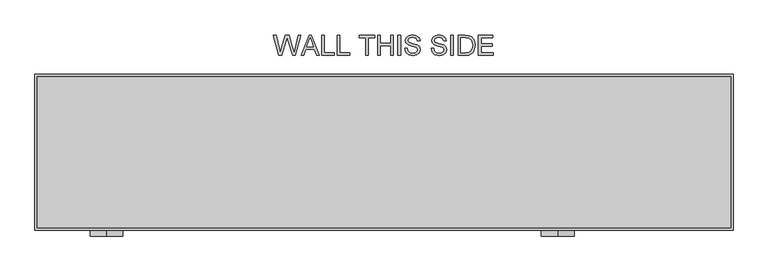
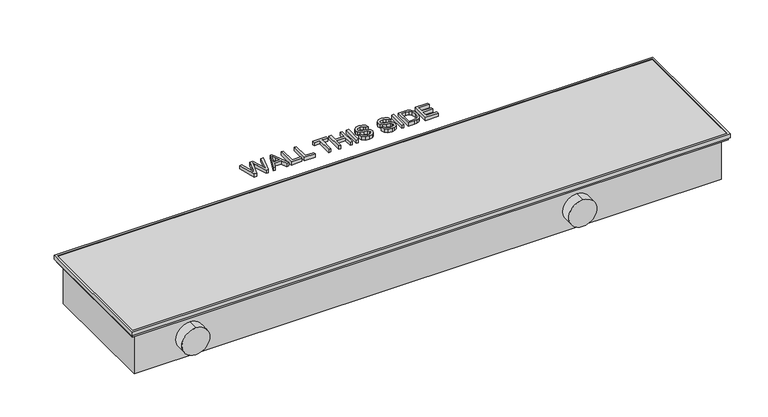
"""IFC4 building model written with IfcOpenShell, lengths in millimetres: unitary equipment geometry, VERANO CVK4P-II : CVK4P-14/35-II."""

import ifcopenshell
import ifcopenshell.guid

model = None  # the IFC model being written
_history = None  # IfcOwnerHistory: only IFC2X3 demands one
_inside = {}  # id of a spatial element -> (the spatial element, [elements in it])
_under = {}  # id of a project, library or spatial element -> (it, [spatial elements below it])
_declared = {}  # id of a project -> (the project, [libraries it declares])
_typed = {}  # id of a type object -> (the type object, [elements of that type])
_made_of = {}  # id of a material, layer set ... -> (it, [elements and type objects made of it])


def new_model(schema):
    """Start an empty IFC model of exactly this schema.

    Asked for "IFC4X3", IfcOpenShell would pick the latest addendum, in which some entities
    have other attributes; the version numbers below select the first issue.
    IFC2X3 requires an IfcOwnerHistory on every rooted entity: one is made here for all.
    """
    global model, _history
    if schema == "IFC4X3":
        model = ifcopenshell.file(schema_version=(4, 3, 0, 0))
    else:
        model = ifcopenshell.file(schema=schema)
    _inside.clear()
    _under.clear()
    _declared.clear()
    _typed.clear()
    _made_of.clear()
    _history = None
    if model.schema == "IFC2X3":
        org = make("IfcOrganization", Name="unknown")
        user = make(
            "IfcPersonAndOrganization",
            ThePerson=make("IfcPerson", FamilyName="unknown"),
            TheOrganization=org,
        )
        app = make(
            "IfcApplication",
            ApplicationDeveloper=org,
            Version="unknown",
            ApplicationFullName="unknown",
            ApplicationIdentifier="unknown",
        )
        _history = make(
            "IfcOwnerHistory",
            OwningUser=user,
            OwningApplication=app,
            ChangeAction="ADDED",
            CreationDate=0,
        )
    return model


def make(cls, **values):
    """One entity of the class cls with the attributes given. An attribute that is None is left unset."""
    return model.create_entity(
        cls, **{name: value for name, value in values.items() if value is not None}
    )


def rooted(cls, **values):
    """An entity with a GlobalId (a new one), such as an element, a storey or a relation."""
    return make(cls, GlobalId=ifcopenshell.guid.new(), OwnerHistory=_history, **values)


def si_unit(unit_type, name, prefix=None):
    """IfcSIUnit, for example si_unit("LENGTHUNIT", "METRE", prefix="MILLI")."""
    return make("IfcSIUnit", UnitType=unit_type, Prefix=prefix, Name=name)


def assignment(units):
    """IfcUnitAssignment: the units of a project."""
    return None if units is None else make("IfcUnitAssignment", Units=units)


def point(xyz):
    """IfcCartesianPoint."""
    return None if xyz is None else make("IfcCartesianPoint", Coordinates=xyz)


def direction(xyz):
    """IfcDirection."""
    return None if xyz is None else make("IfcDirection", DirectionRatios=xyz)


def frame(location, z_axis=None, x_axis=None):
    """IfcAxis2Placement3D, a coordinate frame: its origin and axes. An axis left out is left unset."""
    return make(
        "IfcAxis2Placement3D",
        Location=point(location),
        Axis=direction(z_axis),
        RefDirection=direction(x_axis),
    )


def frame_2d(location, x_axis=None):
    """IfcAxis2Placement2D, a coordinate frame in the plane: its origin and x axis."""
    return make(
        "IfcAxis2Placement2D", Location=point(location), RefDirection=direction(x_axis)
    )


def origin():
    """The frame at (0, 0, 0) with its axes left unset."""
    return frame((0.0, 0.0, 0.0))


def origin_with_axes():
    """The frame at (0, 0, 0) with the z axis (0, 0, 1) and the x axis (1, 0, 0) written out."""
    return frame((0.0, 0.0, 0.0), z_axis=(0.0, 0.0, 1.0), x_axis=(1.0, 0.0, 0.0))


def place(relative_to, where):
    """IfcLocalPlacement: puts the frame where relative to a parent placement (None: the world)."""
    return make(
        "IfcLocalPlacement", PlacementRelTo=relative_to, RelativePlacement=where
    )


def context(
    kind, dimensions, precision=None, world=None, true_north=None, identifier=None
):
    """IfcGeometricRepresentationContext, for example the 3D "Model" context."""
    return make(
        "IfcGeometricRepresentationContext",
        ContextIdentifier=identifier,
        ContextType=kind,
        CoordinateSpaceDimension=dimensions,
        Precision=precision,
        WorldCoordinateSystem=world,
        TrueNorth=true_north,
    )


def project(units=None, contexts=None):
    """IfcProject with its units and contexts."""
    return rooted(
        "IfcProject",
        Name="project",
        RepresentationContexts=contexts,
        UnitsInContext=assignment(units),
    )


def spatial(cls, under=None, at=None, **own):
    """A site, building, storey or space (cls), placed at a placement, below another one or the project."""
    s = rooted(cls, ObjectPlacement=at, **own)
    if under is not None:
        _under.setdefault(under.id(), (under, []))[1].append(s)
    return s


def polyline(points):
    """IfcPolyline through the points."""
    return make("IfcPolyline", Points=[point(p) for p in points])


def circle_curve(where, radius):
    """IfcCircle in the frame where."""
    return make("IfcCircle", Position=where, Radius=radius)


def trimmed(basis, trim1, trim2, sense, master):
    """IfcTrimmedCurve: the piece of a basis curve between two trims."""
    return make(
        "IfcTrimmedCurve",
        BasisCurve=basis,
        Trim1=trim1,
        Trim2=trim2,
        SenseAgreement=sense,
        MasterRepresentation=master,
    )


def segment(curve, same_sense, transition):
    """IfcCompositeCurveSegment."""
    return make(
        "IfcCompositeCurveSegment",
        Transition=transition,
        SameSense=same_sense,
        ParentCurve=curve,
    )


def composite_curve(segments, self_intersect=None):
    """IfcCompositeCurve: segments joined end to end."""
    return make("IfcCompositeCurve", Segments=segments, SelfIntersect=self_intersect)


def outline(outer, holes=None, kind="AREA"):
    """IfcArbitraryClosedProfileDef: a profile drawn as a closed curve; with holes, ...WithVoids."""
    if holes is None:
        return make("IfcArbitraryClosedProfileDef", ProfileType=kind, OuterCurve=outer)
    return make(
        "IfcArbitraryProfileDefWithVoids",
        ProfileType=kind,
        OuterCurve=outer,
        InnerCurves=holes,
    )


def extrude(swept, where, along, depth):
    """IfcExtrudedAreaSolid: the profile swept, set in the frame where, extruded along a direction by depth."""
    return make(
        "IfcExtrudedAreaSolid",
        SweptArea=swept,
        Position=where,
        ExtrudedDirection=direction(along),
        Depth=depth,
    )


def faces_of(points, faces, orient=None, outer=None):
    """IfcFace entities. A face is a list of loops; a loop is a list of indices into points, from 0.

    orient and outer hold one flag for each loop. By default every Orientation is true, the
    first loop of a face is its IfcFaceOuterBound and the others are IfcFaceBound.
    """
    made = []
    for i, loops in enumerate(faces):
        bounds = []
        for j, loop in enumerate(loops):
            is_outer = j == 0 if outer is None else outer[i][j]
            bounds.append(
                make(
                    "IfcFaceOuterBound" if is_outer else "IfcFaceBound",
                    Bound=make("IfcPolyLoop", Polygon=[points[k] for k in loop]),
                    Orientation=True if orient is None else orient[i][j],
                )
            )
        made.append(make("IfcFace", Bounds=bounds))
    return made


def faceted_brep(points, faces, orient=None, outer=None, voids=None):
    """IfcFacetedBrep: a solid bounded by flat faces; with voids (closed shells), ...WithVoids."""
    shared = [point(p) for p in points]
    hull = make("IfcClosedShell", CfsFaces=faces_of(shared, faces, orient, outer))
    if voids is None:
        return make("IfcFacetedBrep", Outer=hull)
    return make(
        "IfcFacetedBrepWithVoids",
        Outer=hull,
        Voids=[
            make(cls, CfsFaces=faces_of(shared, fs, o, b)) for cls, fs, o, b in voids
        ],
    )


def shape(context_of_items, identifier, shape_type, items):
    """IfcShapeRepresentation: the items that make up one representation, for example the "Body"."""
    return make(
        "IfcShapeRepresentation",
        ContextOfItems=context_of_items,
        RepresentationIdentifier=identifier,
        RepresentationType=shape_type,
        Items=items,
    )


def source(mapping_origin, context_of_items, identifier, shape_type, items):
    """IfcRepresentationMap: a shape defined once, which mapped items show again and again."""
    return make(
        "IfcRepresentationMap",
        MappingOrigin=mapping_origin,
        MappedRepresentation=shape(context_of_items, identifier, shape_type, items),
    )


def transform(
    local_origin,
    x_axis=None,
    y_axis=None,
    z_axis=None,
    scale=None,
    scale2=None,
    scale3=None,
    uniform=True,
):
    """IfcCartesianTransformationOperator3D, or its non-uniform kind. x_axis, y_axis, z_axis: its Axis1, 2, 3."""
    if uniform:
        return make(
            "IfcCartesianTransformationOperator3D",
            Axis1=direction(x_axis),
            Axis2=direction(y_axis),
            LocalOrigin=point(local_origin),
            Scale=scale,
            Axis3=direction(z_axis),
        )
    return make(
        "IfcCartesianTransformationOperator3DnonUniform",
        Axis1=direction(x_axis),
        Axis2=direction(y_axis),
        LocalOrigin=point(local_origin),
        Scale=scale,
        Axis3=direction(z_axis),
        Scale2=scale2,
        Scale3=scale3,
    )


def mapped(mapping_source, mapping_target):
    """IfcMappedItem: shows the shape of a source again, moved by a transform."""
    return make(
        "IfcMappedItem", MappingSource=mapping_source, MappingTarget=mapping_target
    )


def made_of(thing, what):
    """Note that an element or type object is made of a material, layer set ...; save() writes the relation."""
    if what is not None:
        _made_of.setdefault(what.id(), (what, []))[1].append(thing)
    return thing


def element(
    cls,
    number,
    at=None,
    inside=None,
    cuts=None,
    type_object=None,
    material=None,
    context=None,
    identifier="Body",
    shape_type=None,
    held_by="IfcProductDefinitionShape",
    body=None,
    shapes=None,
    **own,
):
    """One element of the class cls, such as IfcWall. Its Tag is "e" and its number.

    at: its placement. inside: the storey or other place that contains it. cuts: it is an
    opening in that element (IfcRelVoidsElement). A single representation is given by context,
    identifier, shape_type and body (its items); several are given by shapes. held_by: the class
    of the entity that holds the representations. save() writes the other relations.
    """
    e = rooted(cls, Tag="e%d" % number, ObjectPlacement=at, **own)
    if body is not None:
        shapes = [shape(context, identifier, shape_type, body)]
    if shapes is not None:
        e.Representation = make(held_by, Representations=shapes)
    if inside is not None:
        _inside.setdefault(inside.id(), (inside, []))[1].append(e)
    if cuts is not None:
        rooted(
            "IfcRelVoidsElement", RelatingBuildingElement=cuts, RelatedOpeningElement=e
        )
    if type_object is not None:
        _typed.setdefault(type_object.id(), (type_object, []))[1].append(e)
    return made_of(e, material)


def aggregate(whole, parts):
    """IfcRelAggregates: a whole, such as a stair, and the parts it consists of."""
    return rooted("IfcRelAggregates", RelatingObject=whole, RelatedObjects=parts)


def save(model, path):
    """Write the relations noted so far, then the file.

    IfcRelAggregates (storeys below a building ...), IfcRelContainedInSpatialStructure (elements
    in a storey), IfcRelDefinesByType, IfcRelAssociatesMaterial and IfcRelDeclares: one each for
    every whole, place, type object, material and project.
    """
    for whole, parts in _under.values():
        aggregate(whole, parts)
    for where, things in _inside.values():
        rooted(
            "IfcRelContainedInSpatialStructure",
            RelatedElements=things,
            RelatingStructure=where,
        )
    for kind, things in _typed.values():
        rooted("IfcRelDefinesByType", RelatedObjects=things, RelatingType=kind)
    for what, things in _made_of.values():
        rooted("IfcRelAssociatesMaterial", RelatedObjects=things, RelatingMaterial=what)
    for by, libraries in _declared.values():
        rooted("IfcRelDeclares", RelatingContext=by, RelatedDefinitions=libraries)
    model.write(path)


def unitary_equipment_4013172e(model_context):
    return source(origin(), model_context, "Body", "SolidModel", [
        extrude(outline(composite_curve([segment(trimmed(circle_curve(frame_2d((-79.0, -679.0)), 40.0), [point((-39.0, -679.0))], [point((-119.0, -679.0))], False, "CARTESIAN"), True, "CONTINUOUS"), segment(trimmed(circle_curve(frame_2d((-79.0, -679.0)), 40.0), [point((-119.0, -679.0))], [point((-39.0, -679.0))], False, "CARTESIAN"), True, "CONTINUOUS")], self_intersect=False)), frame((0.0, -205.0, 0.0), z_axis=(0.0, 1.0, 0.0), x_axis=(0.0, 0.0, 1.0)), (0.0, 0.0, 1.0), 30.0),
        extrude(outline(composite_curve([segment(trimmed(circle_curve(frame_2d((-79.0, 425.0)), 40.0), [point((-39.0, 425.0))], [point((-119.0, 425.0))], False, "CARTESIAN"), True, "CONTINUOUS"), segment(trimmed(circle_curve(frame_2d((-79.0, 425.0)), 40.0), [point((-119.0, 425.0))], [point((-39.0, 425.0))], False, "CARTESIAN"), True, "CONTINUOUS")], self_intersect=False)), frame((0.0, -205.0, 0.0), z_axis=(0.0, 1.0, 0.0), x_axis=(0.0, 0.0, 1.0)), (0.0, 0.0, 1.0), 30.0),
        extrude(outline(composite_curve([segment(trimmed(circle_curve(frame_2d((35.0, -71.0)), 10.0), [point((35.0, -61.0))], [point((35.0, -81.0))], False, "CARTESIAN"), True, "CONTINUOUS"), segment(trimmed(circle_curve(frame_2d((35.0, -71.0)), 10.0), [point((35.0, -81.0))], [point((35.0, -61.0))], False, "CARTESIAN"), True, "CONTINUOUS")], self_intersect=False)), frame((632.0, 0.0, 0.0), z_axis=(1.0, 0.0, 0.0), x_axis=(0.0, 1.0, 0.0)), (0.0, 0.0, 1.0), 70.0),
        extrude(outline(composite_curve([segment(trimmed(circle_curve(frame_2d((143.0, -79.0)), 10.0), [point((143.0, -69.0))], [point((143.0, -89.0))], False, "CARTESIAN"), True, "CONTINUOUS"), segment(trimmed(circle_curve(frame_2d((143.0, -79.0)), 10.0), [point((143.0, -89.0))], [point((143.0, -69.0))], False, "CARTESIAN"), True, "CONTINUOUS")], self_intersect=False)), frame((632.0, 0.0, 0.0), z_axis=(1.0, 0.0, 0.0), x_axis=(0.0, 1.0, 0.0)), (0.0, 0.0, 1.0), 70.0),
        extrude(outline(polyline([(642.0, -5.0), (642.0, -25.0), (632.0, -25.0), (632.0, -5.0), (642.0, -5.0)])), frame((0.0, 0.0, -130.0), z_axis=(0.0, 0.0, 1.0), x_axis=(1.0, 0.0, 0.0)), (0.0, 0.0, 1.0), 10.0),
        faceted_brep([(848.0, -185.0, -16.5), (848.0, -185.0, 1.5), (848.0, 185.0, 1.5), (848.0, 185.0, -16.5), (849.0, -186.0, 0.0), (849.0, -186.0, -16.5), (849.0, 186.0, -16.5), (849.0, 186.0, 0.0), (853.0, -190.0, -10.0), (853.0, -190.0, 0.0), (853.0, 190.0, 0.0), (853.0, 190.0, -10.0), (854.0, -191.0, 1.5), (854.0, -191.0, -10.0), (854.0, 191.0, -10.0), (854.0, 191.0, 1.5), (-848.0, 185.0, 1.5), (-848.0, 185.0, -16.5), (-849.0, 186.0, -16.5), (-849.0, 186.0, 0.0), (-853.0, 190.0, 0.0), (-853.0, 190.0, -10.0), (-854.0, 191.0, -10.0), (-854.0, 191.0, 1.5), (-848.0, -185.0, 1.5), (-848.0, -185.0, -16.5), (-849.0, -186.0, -16.5), (-849.0, -186.0, 0.0), (-853.0, -190.0, 0.0), (-853.0, -190.0, -10.0), (-854.0, -191.0, -10.0), (-854.0, -191.0, 1.5)], [[[0, 1, 2, 3]], [[4, 5, 6, 7]], [[8, 9, 10, 11]], [[12, 13, 14, 15]], [[3, 2, 16, 17]], [[7, 6, 18, 19]], [[11, 10, 20, 21]], [[15, 14, 22, 23]], [[17, 16, 24, 25]], [[19, 18, 26, 27]], [[21, 20, 28, 29]], [[23, 22, 30, 31]], [[15, 23, 31, 12], [1, 24, 16, 2]], [[25, 24, 1, 0]], [[5, 26, 18, 6], [3, 17, 25, 0]], [[27, 26, 5, 4]], [[9, 28, 20, 10], [7, 19, 27, 4]], [[29, 28, 9, 8]], [[13, 30, 22, 14], [11, 21, 29, 8]], [[31, 30, 13, 12]]]),
        extrude(outline(composite_curve([segment(trimmed(circle_curve(frame_2d((23.0, -36.0)), 10.0), [point((23.0, -26.0))], [point((23.0, -46.0))], False, "CARTESIAN"), True, "CONTINUOUS"), segment(trimmed(circle_curve(frame_2d((23.0, -36.0)), 10.0), [point((23.0, -46.0))], [point((23.0, -26.0))], False, "CARTESIAN"), True, "CONTINUOUS")], self_intersect=False)), frame((632.0, 0.0, 0.0), z_axis=(1.0, 0.0, 0.0), x_axis=(0.0, 1.0, 0.0)), (0.0, 0.0, 1.0), 70.0),
        extrude(outline(composite_curve([segment(trimmed(circle_curve(frame_2d((115.0, -97.0)), 10.0), [point((115.0, -87.0))], [point((115.0, -107.0))], False, "CARTESIAN"), True, "CONTINUOUS"), segment(trimmed(circle_curve(frame_2d((115.0, -97.0)), 10.0), [point((115.0, -107.0))], [point((115.0, -87.0))], False, "CARTESIAN"), True, "CONTINUOUS")], self_intersect=False)), frame((632.0, 0.0, 0.0), z_axis=(1.0, 0.0, 0.0), x_axis=(0.0, 1.0, 0.0)), (0.0, 0.0, 1.0), 70.0),
        extrude(outline(polyline([(-256.9591346, 237.0), (-270.3846154, 286.2307692), (-264.0384615, 286.2307692), (-256.25, 253.875), (-253.8461538, 243.8870192), (-251.2740385, 252.7211538), (-241.5144231, 286.2307692), (-232.3677885, 286.2307692), (-225.2764423, 261.9399038), (-220.0, 243.8870192), (-217.6682692, 253.5865385), (-209.8076923, 286.2307692), (-203.4615385, 286.2307692), (-216.8990385, 237.0), (-223.4735577, 237.0), (-235.2764423, 274.9807692), (-236.9230769, 280.28125), (-238.7740385, 273.8990385), (-249.53125, 237.0), (-256.9591346, 237.0)])), origin_with_axes(), (0.0, 0.0, 1.0), 10.0),
        extrude(outline(polyline([(-203.0408654, 237.0), (-183.3894231, 286.2307692), (-178.1490385, 286.2307692), (-158.4975962, 237.0), (-165.0, 237.0), (-170.6370192, 252.3846154), (-190.9134615, 252.3846154), (-196.5384615, 237.0), (-203.0408654, 237.0)]), holes=[polyline([(-188.6538462, 258.5384615), (-172.8846154, 258.5384615), (-177.3197115, 270.6418269), (-180.7692308, 280.0769231), (-183.8341346, 271.6995192), (-188.6538462, 258.5384615)])]), origin_with_axes(), (0.0, 0.0, 1.0), 10.0),
        extrude(outline(polyline([(-151.9230769, 237.0), (-151.9230769, 286.2307692), (-145.7692308, 286.2307692), (-145.7692308, 243.1538462), (-121.1538462, 243.1538462), (-121.1538462, 237.0), (-151.9230769, 237.0)])), origin_with_axes(), (0.0, 0.0, 1.0), 10.0),
        extrude(outline(polyline([(-114.2307692, 237.0), (-114.2307692, 286.2307692), (-108.0769231, 286.2307692), (-108.0769231, 243.1538462), (-83.4615385, 243.1538462), (-83.4615385, 237.0), (-114.2307692, 237.0)])), origin_with_axes(), (0.0, 0.0, 1.0), 10.0),
        extrude(outline(polyline([(-45.0, 237.0), (-45.0, 280.0769231), (-61.1538462, 280.0769231), (-61.1538462, 286.2307692), (-22.6923077, 286.2307692), (-22.6923077, 280.0769231), (-38.8461538, 280.0769231), (-38.8461538, 237.0), (-45.0, 237.0)])), origin_with_axes(), (0.0, 0.0, 1.0), 10.0),
        extrude(outline(polyline([(-15.7692308, 237.0), (-15.7692308, 286.2307692), (-9.6153846, 286.2307692), (-9.6153846, 266.2307692), (16.5384615, 266.2307692), (16.5384615, 286.2307692), (22.6923077, 286.2307692), (22.6923077, 237.0), (16.5384615, 237.0), (16.5384615, 260.0769231), (-9.6153846, 260.0769231), (-9.6153846, 237.0), (-15.7692308, 237.0)])), origin_with_axes(), (0.0, 0.0, 1.0), 10.0),
        extrude(outline(polyline([(34.2307692, 237.0), (34.2307692, 286.2307692), (40.3846154, 286.2307692), (40.3846154, 237.0), (34.2307692, 237.0)])), origin_with_axes(), (0.0, 0.0, 1.0), 10.0),
        extrude(outline(polyline([(50.3846154, 253.9230769), (56.5384615, 253.9230769), (58.5216346, 247.7632212), (63.3653846, 243.8689904), (70.7451923, 242.3846154), (77.1754808, 243.5084135), (81.328125, 246.5973558), (82.6923077, 250.7259615), (81.6706731, 254.5661058), (77.4879808, 257.3605769), (68.5276442, 259.7103365), (58.8822115, 262.7451923), (53.6478365, 267.3245192), (51.9230769, 273.4423077), (54.0564904, 280.4074519), (60.2884615, 285.3233173), (69.4110577, 287.0), (79.1466346, 285.2451923), (85.6370192, 280.0889423), (88.0769231, 272.3846154), (81.9230769, 272.3846154), (78.4375, 278.7067308), (69.6514423, 280.8461538), (60.8413462, 278.7307692), (58.0769231, 273.6225962), (60.0360577, 269.3557692), (70.0841346, 265.9182692), (80.9735577, 262.8293269), (86.9290865, 257.8413462), (88.8461538, 250.8822115), (86.640625, 243.5204327), (80.2944712, 238.1478365), (70.9855769, 236.2307692), (59.9939904, 238.2980769), (53.0408654, 244.5240385), (50.3846154, 253.9230769)])), origin_with_axes(), (0.0, 0.0, 1.0), 10.0),
        extrude(outline(polyline([(115.0, 253.9230769), (121.1538462, 253.9230769), (123.1370192, 247.7632212), (127.9807692, 243.8689904), (135.3605769, 242.3846154), (141.7908654, 243.5084135), (145.9435096, 246.5973558), (147.3076923, 250.7259615), (146.2860577, 254.5661058), (142.1033654, 257.3605769), (133.1430288, 259.7103365), (123.4975962, 262.7451923), (118.2632212, 267.3245192), (116.5384615, 273.4423077), (118.671875, 280.4074519), (124.9038462, 285.3233173), (134.0264423, 287.0), (143.7620192, 285.2451923), (150.2524038, 280.0889423), (152.6923077, 272.3846154), (146.5384615, 272.3846154), (143.0528846, 278.7067308), (134.2668269, 280.8461538), (125.4567308, 278.7307692), (122.6923077, 273.6225962), (124.6514423, 269.3557692), (134.6995192, 265.9182692), (145.5889423, 262.8293269), (151.5444712, 257.8413462), (153.4615385, 250.8822115), (151.2560096, 243.5204327), (144.9098558, 238.1478365), (135.6009615, 236.2307692), (124.609375, 238.2980769), (117.65625, 244.5240385), (115.0, 253.9230769)])), origin_with_axes(), (0.0, 0.0, 1.0), 10.0),
        extrude(outline(polyline([(163.4615385, 237.0), (163.4615385, 286.2307692), (169.6153846, 286.2307692), (169.6153846, 237.0), (163.4615385, 237.0)])), origin_with_axes(), (0.0, 0.0, 1.0), 10.0),
        extrude(outline(polyline([(181.9230769, 237.0), (181.9230769, 286.2307692), (198.90625, 286.2307692), (207.6923077, 285.5216346), (214.9278846, 282.0), (220.7572115, 273.5865385), (222.6923077, 261.8798077), (221.3822115, 251.9459135), (218.0168269, 244.7764423), (213.5216346, 240.3112981), (207.6382212, 237.8413462), (199.7235577, 237.0), (181.9230769, 237.0)]), holes=[polyline([(188.0769231, 243.1538462), (198.9663462, 243.1538462), (206.8870192, 244.0432692), (211.4543269, 246.5552885), (215.1983173, 252.6670673), (216.5384615, 261.9759615), (213.9122596, 273.6346154), (207.5240385, 279.0913462), (198.7980769, 280.0769231), (188.0769231, 280.0769231), (188.0769231, 243.1538462)])]), origin_with_axes(), (0.0, 0.0, 1.0), 10.0),
        extrude(outline(polyline([(231.1538462, 237.0), (231.1538462, 286.2307692), (266.5384615, 286.2307692), (266.5384615, 280.0769231), (237.3076923, 280.0769231), (237.3076923, 265.4615385), (265.0, 265.4615385), (265.0, 259.3076923), (237.3076923, 259.3076923), (237.3076923, 243.1538462), (267.3076923, 243.1538462), (267.3076923, 237.0), (231.1538462, 237.0)])), origin_with_axes(), (0.0, 0.0, 1.0), 10.0),
        extrude(outline(polyline([(632.0, 175.0), (632.0, -162.0), (-788.0, -162.0), (-788.0, 175.0), (632.0, 175.0)])), frame((0.0, 0.0, -139.0), z_axis=(0.0, 0.0, 1.0), x_axis=(1.0, 0.0, 0.0)), (0.0, 0.0, 1.0), 121.0),
        extrude(outline(polyline([(850.0, 187.0), (850.0, -187.0), (-850.0, -187.0), (-850.0, 187.0), (850.0, 187.0)])), frame((0.0, 0.0, -18.0), z_axis=(0.0, 0.0, 1.0), x_axis=(1.0, 0.0, 0.0)), (0.0, 0.0, 1.0), 18.0),
        faceted_brep([(837.0, -174.0, -17.0), (837.0, 174.0, -17.0), (837.0, 174.0, -139.0), (837.0, -174.0, -139.0), (850.0, -187.0, 0.0), (850.0, -187.0, -18.0), (850.0, 187.0, -18.0), (850.0, 187.0, 0.0), (849.0, -186.0, -17.0), (849.0, -186.0, 0.0), (849.0, 186.0, 0.0), (849.0, 186.0, -17.0), (838.0, -175.0, -18.0), (838.0, -175.0, -140.0), (838.0, 175.0, -140.0), (838.0, 175.0, -18.0), (-850.0, 187.0, -18.0), (-850.0, 187.0, 0.0), (-849.0, 186.0, 0.0), (-849.0, 186.0, -17.0), (-838.0, 175.0, -140.0), (-838.0, 175.0, -18.0), (-837.0, 174.0, -17.0), (-837.0, 174.0, -139.0), (-850.0, -187.0, -18.0), (-850.0, -187.0, 0.0), (-849.0, -186.0, 0.0), (-849.0, -186.0, -17.0), (-838.0, -175.0, -140.0), (-838.0, -175.0, -18.0), (-837.0, -174.0, -17.0), (-837.0, -174.0, -139.0)], [[[0, 1, 2, 3]], [[4, 5, 6, 7]], [[8, 9, 10, 11]], [[12, 13, 14, 15]], [[7, 6, 16, 17]], [[11, 10, 18, 19]], [[15, 14, 20, 21]], [[1, 22, 23, 2]], [[17, 16, 24, 25]], [[19, 18, 26, 27]], [[21, 20, 28, 29]], [[22, 30, 31, 23]], [[8, 11, 19, 27], [1, 0, 30, 22]], [[5, 4, 25, 24]], [[4, 7, 17, 25], [10, 9, 26, 18]], [[9, 8, 27, 26]], [[6, 5, 24, 16], [12, 15, 21, 29]], [[13, 12, 29, 28]], [[14, 13, 28, 20]], [[30, 0, 3, 31]], [[3, 2, 23, 31]]]),
    ])


if __name__ == "__main__":
    model = new_model("IFC4")
    model_context = context("Model", 3, world=origin())
    ifc_project = project(units=[si_unit("LENGTHUNIT", "METRE", prefix="MILLI")], contexts=[model_context])
    site = spatial("IfcSite", under=ifc_project)
    building = spatial("IfcBuilding", under=site)
    placement = place(None, origin())
    unitary_equipment_shape = unitary_equipment_4013172e(model_context)
    element("IfcUnitaryEquipment", 1, ObjectType="VERANO CVK4P-II : CVK4P-14/35-II", at=placement, inside=building, context=model_context, shape_type="MappedRepresentation", body=[
        mapped(unitary_equipment_shape, transform((0.0, 0.0, 0.0), x_axis=(1.0, 0.0, 0.0), y_axis=(0.0, 1.0, 0.0), z_axis=(0.0, 0.0, 1.0))),
    ])
    save(model, "model.ifc")
